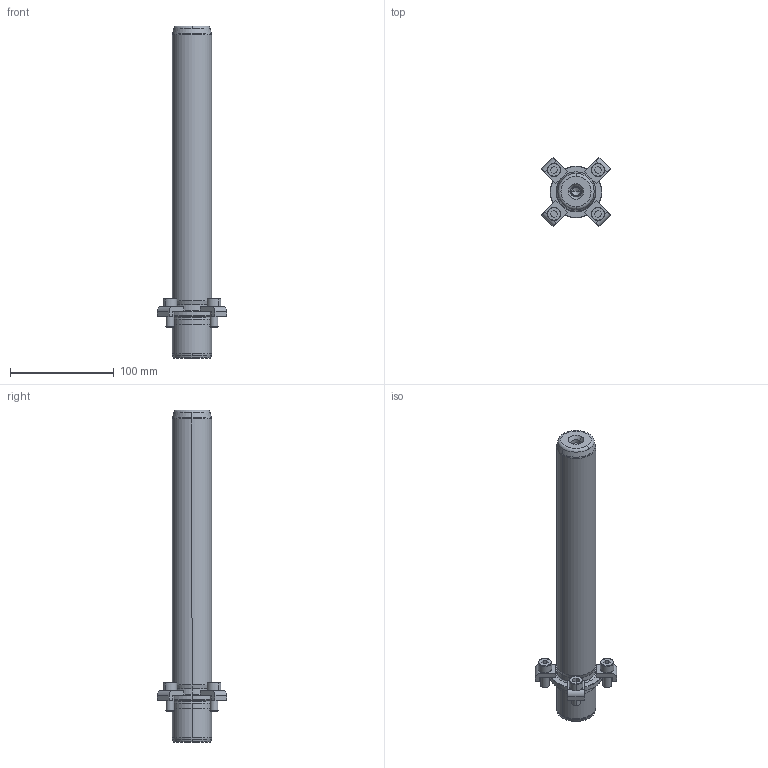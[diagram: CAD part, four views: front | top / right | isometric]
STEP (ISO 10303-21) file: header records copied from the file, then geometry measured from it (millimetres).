
FILE_DESCRIPTION((''),'2;1');
FILE_NAME('P21_038_280.stp','2008-12-23T10:56:59',(''),(''),'Mechanical Desktop 2009','Mechanical Desktop 2009',', , ');
FILE_SCHEMA(('CONFIG_CONTROL_DESIGN'));
Length unit declared in the file: millimetre
Products named in the file (2): Product; blmdl1
Assembly tree (1 placements, depth 2):
  Product
    blmdl1
Bounding box: 66.82 x 66.82 x 320 mm (x, y, z)
Volume: 373847.4 mm3; surface area: 52538.3 mm2
Topology: 9 solids, 9 shells, 195 faces, 477 edges, 309 vertices
Faces by surface type: plane 77, cylinder 52, cone 34, torus 16, bspline 16
Entity records: 6547 total; most frequent: CARTESIAN_POINT 1683, DIRECTION 1078, ORIENTED_EDGE 946, EDGE_CURVE 473, AXIS2_PLACEMENT_3D 424, VERTEX_POINT 309, CIRCLE 243, VECTOR 230
